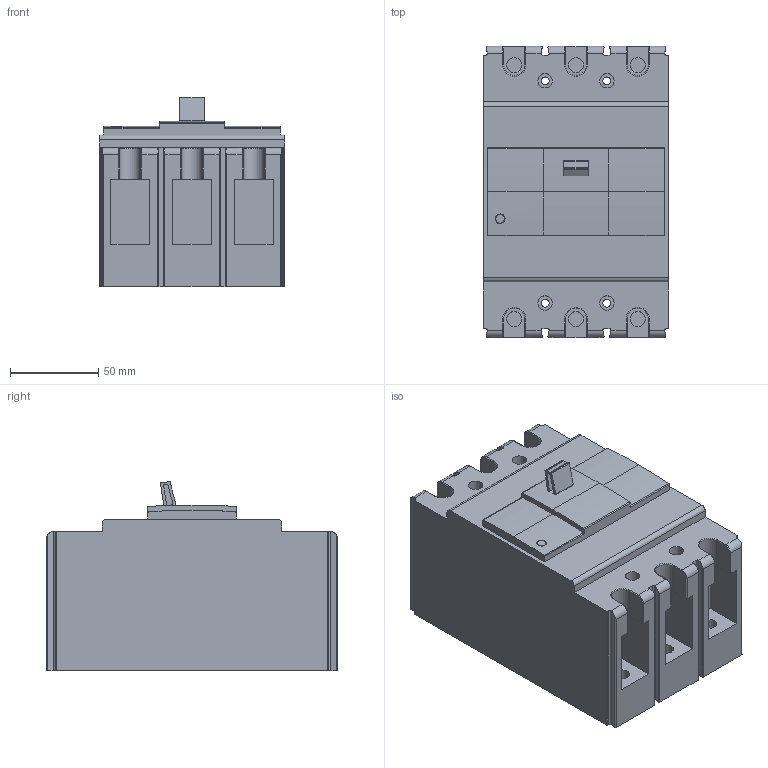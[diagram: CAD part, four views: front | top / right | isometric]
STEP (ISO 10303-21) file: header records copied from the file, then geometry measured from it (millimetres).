
FILE_DESCRIPTION (( 'STEP AP203' ), '1' );
FILE_NAME ('203F.STEP', '2018-01-04T00:51:47', ( '' ), ( '' ), 'SwSTEP 2.0', 'SolidWorks 2015', '' );
FILE_SCHEMA (( 'CONFIG_CONTROL_DESIGN' ));
Length unit declared in the file: millimetre
Products named in the file (1): 203F
Bounding box: 105 x 165 x 107.59 mm (x, y, z)
Volume: 1325273.9 mm3; surface area: 109281.9 mm2
Topology: 1 solids, 1 shells, 274 faces, 726 edges, 468 vertices
Faces by surface type: cylinder 129, plane 124, torus 21
Entity records: 8790 total; most frequent: CARTESIAN_POINT 1781, DIRECTION 1485, ORIENTED_EDGE 1452, EDGE_CURVE 726, AXIS2_PLACEMENT_3D 530, VERTEX_POINT 468, LINE 425, VECTOR 425
